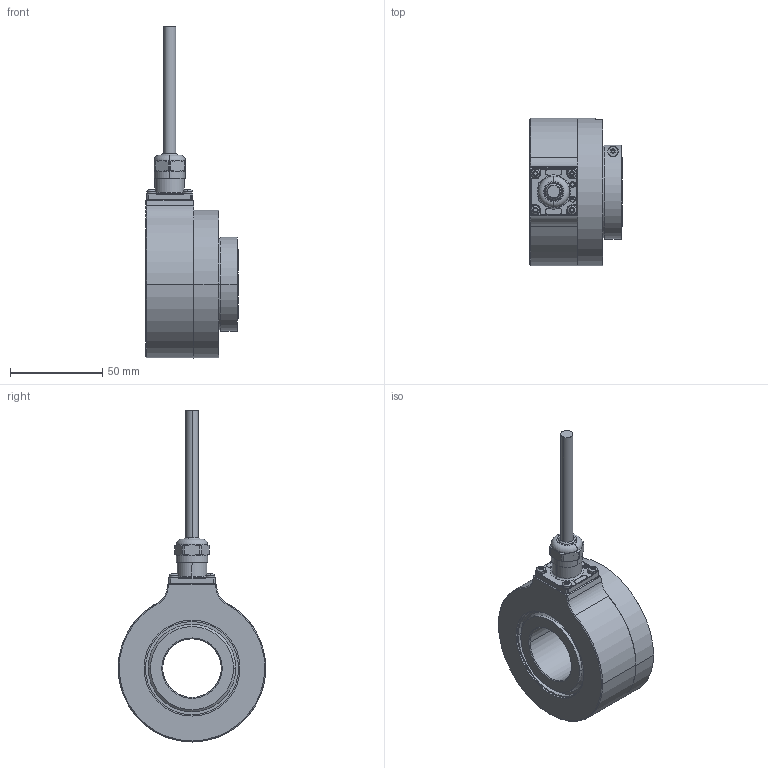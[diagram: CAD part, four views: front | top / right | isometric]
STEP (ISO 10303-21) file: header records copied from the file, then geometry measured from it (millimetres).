
FILE_DESCRIPTION (( 'STEP AP203' ), '1' );
FILE_NAME ('K80I.OXX.XXXXX.XH1089A.6XR11.XXXX.step', '2025-12-09T07:32:08', ( '' ), ( '' ), 'SwSTEP 2.0', 'SolidWorks 2021', '' );
FILE_SCHEMA (( 'CONFIG_CONTROL_DESIGN' ));
Length unit declared in the file: millimetre
Products named in the file (1): K80I.OXX.XXXXX.XH1089A.6XR11.XXXX
Bounding box: 50.2 x 80.15 x 180.07 mm (x, y, z)
Volume: 194332.2 mm3; surface area: 61023.8 mm2
Topology: 9 solids, 9 shells, 608 faces, 1549 edges, 973 vertices
Faces by surface type: cylinder 251, plane 202, cone 66, bspline 40, torus 33, sphere 16
Entity records: 20367 total; most frequent: CARTESIAN_POINT 5609, DIRECTION 3142, ORIENTED_EDGE 3082, EDGE_CURVE 1541, AXIS2_PLACEMENT_3D 1212, VERTEX_POINT 973, LINE 718, VECTOR 718
